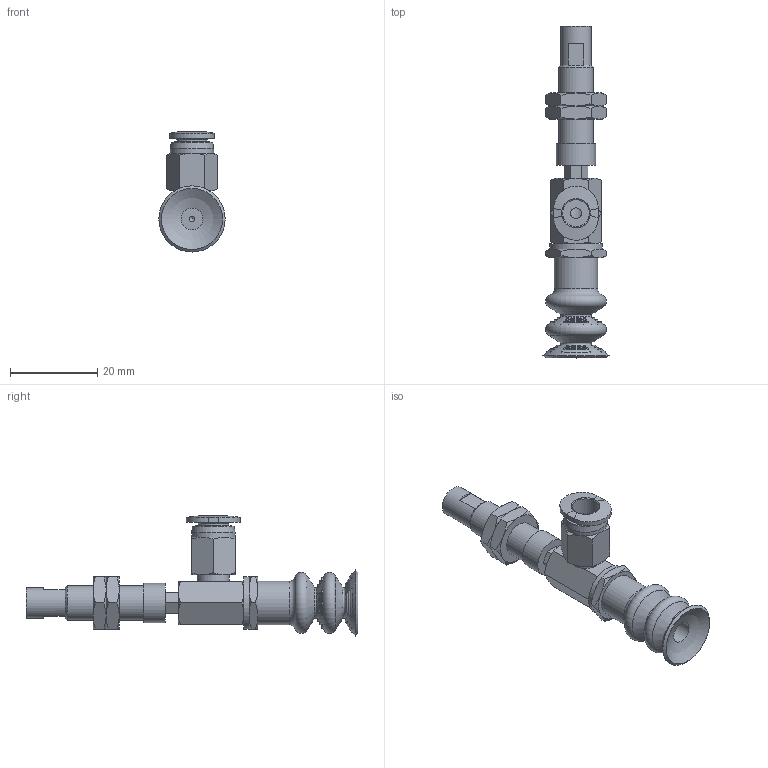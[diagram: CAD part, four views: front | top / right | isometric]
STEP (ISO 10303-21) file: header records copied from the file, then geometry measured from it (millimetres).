
FILE_DESCRIPTION(('STEP AP203'),'1');
FILE_NAME('-O.stp','2025-04-04T01:09:59',(' '),(' '),'Spatial InterOp 3D',' ',' ');
FILE_SCHEMA(('CONFIG_CONTROL_DESIGN'));
Length unit declared in the file: millimetre
Products named in the file (8): BNABPCYH-15-3-※-O; Adapter_napc-15-T; Connector_h-15-3; Nut napc_h-15-3; NAPCTH-15-3-FBODY; NAPCTH-15-3-MBODY; BPCG-15-※; PC-C_06-M5
Assembly tree (8 placements, depth 2):
  BNABPCYH-15-3-※-O
    Adapter_napc-15-T
    Connector_h-15-3
    Nut napc_h-15-3  x2
    NAPCTH-15-3-FBODY
    NAPCTH-15-3-MBODY
    BPCG-15-※
    PC-C_06-M5
Bounding box: 15.2 x 76.2 x 27.58 mm (x, y, z)
Volume: 5462.9 mm3; surface area: 6757.1 mm2
Topology: 7 solids, 10 shells, 298 faces, 832 edges, 532 vertices
Faces by surface type: plane 87, cone 84, sphere 58, torus 36, cylinder 26, bspline 4, revolution 3
Full cylindrical faces by diameter (mm): 1.25 x1, 4 x2, 4.134 x3, 5 x7, 7 x2, 7.188 x2, 7.4 x1, 8 x1, 8.2 x1, 9 x1, 10 x2, 12 x1
Entity records: 8611 total; most frequent: CARTESIAN_POINT 2539, DIRECTION 1213, ORIENTED_EDGE 1062, AXIS2_PLACEMENT_3D 555, EDGE_CURVE 533, EDGE_LOOP 384, VERTEX_POINT 372, CIRCLE 277
